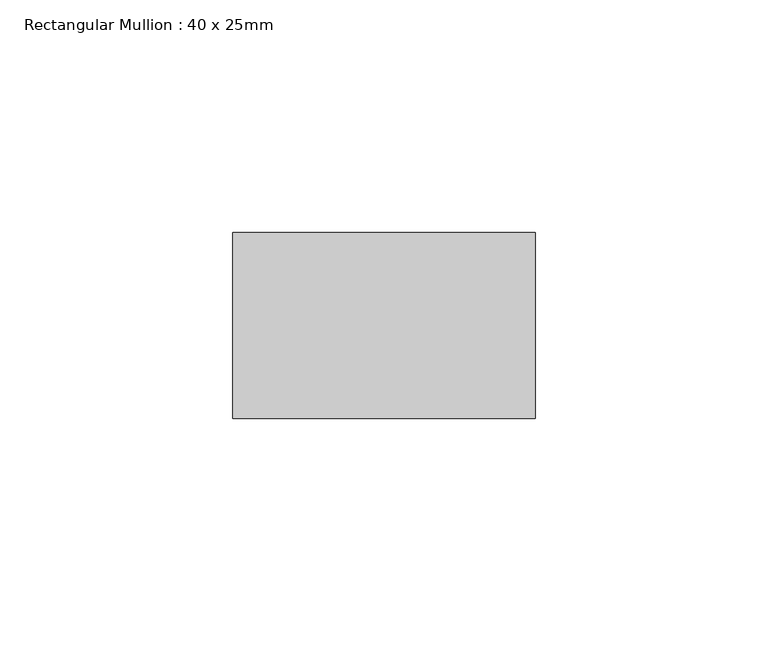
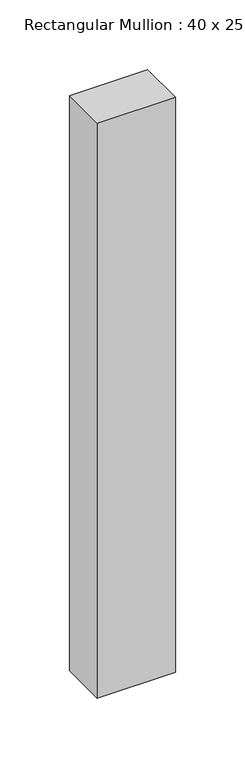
"""IFC4 building model written with IfcOpenShell, lengths in millimetres: member geometry, Rectangular Mullion : 40 x 25mm."""

from ifc_helpers import new_model, si_unit, frame, origin, place, context, project, spatial, polyline, outline, extrude, source, transform, mapped, element, save


def rectangular_mullion_40_x_25mm_c14308e4(model_context):
    return source(origin(), model_context, "Body", "SweptSolid", [
        extrude(outline(polyline([(0.0, -20.0), (0.0, -60.0), (-65.0, -60.0), (-65.0, -20.0), (0.0, -20.0)])), frame((0.0, 0.0, -504.4), z_axis=(0.0, 0.0, 1.0), x_axis=(1.0, 0.0, 0.0)), (0.0, 0.0, 1.0), 504.4),
    ])


if __name__ == "__main__":
    model = new_model("IFC4")
    model_context = context("Model", 3, world=origin())
    ifc_project = project(units=[si_unit("LENGTHUNIT", "METRE", prefix="MILLI")], contexts=[model_context])
    site = spatial("IfcSite", under=ifc_project)
    building = spatial("IfcBuilding", under=site)
    placement = place(None, origin())
    rectangular_mullion_40_x_25mm_shape = rectangular_mullion_40_x_25mm_c14308e4(model_context)
    element("IfcMember", 1, ObjectType="Rectangular Mullion : 40 x 25mm", at=placement, inside=building, context=model_context, shape_type="MappedRepresentation", body=[
        mapped(rectangular_mullion_40_x_25mm_shape, transform((0.0, 0.0, 0.0), x_axis=(1.0, 0.0, 0.0), y_axis=(0.0, 1.0, 0.0), z_axis=(0.0, 0.0, 1.0))),
    ])
    save(model, "model.ifc")
